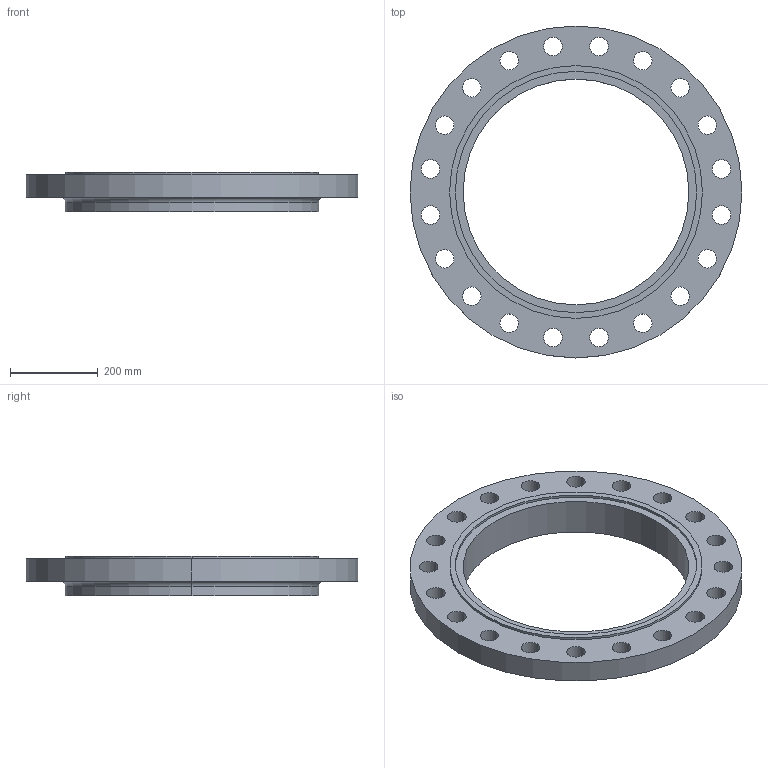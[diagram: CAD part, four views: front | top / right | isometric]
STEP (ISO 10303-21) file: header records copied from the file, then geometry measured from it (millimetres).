
FILE_DESCRIPTION (( 'STEP AP214' ), '1' );
FILE_NAME ('PN40 DN500 Type 12 - Type C Face.STEP', '2018-12-29T01:25:13', ( '' ), ( '' ), 'SwSTEP 2.0', 'SolidWorks 2019', '' );
FILE_SCHEMA (( 'AUTOMOTIVE_DESIGN' ));
Length unit declared in the file: millimetre
Products named in the file (1): PN40 DN500 Type 12 - Type C Face
Bounding box: 755 x 755 x 90 mm (x, y, z)
Volume: 12911490.1 mm3; surface area: 890039.5 mm2
Topology: 1 solids, 1 shells, 57 faces, 154 edges, 102 vertices
Faces by surface type: cylinder 50, plane 5, torus 2
Entity records: 1974 total; most frequent: DIRECTION 374, CARTESIAN_POINT 314, ORIENTED_EDGE 308, AXIS2_PLACEMENT_3D 162, EDGE_CURVE 154, CIRCLE 104, EDGE_LOOP 102, VERTEX_POINT 102
